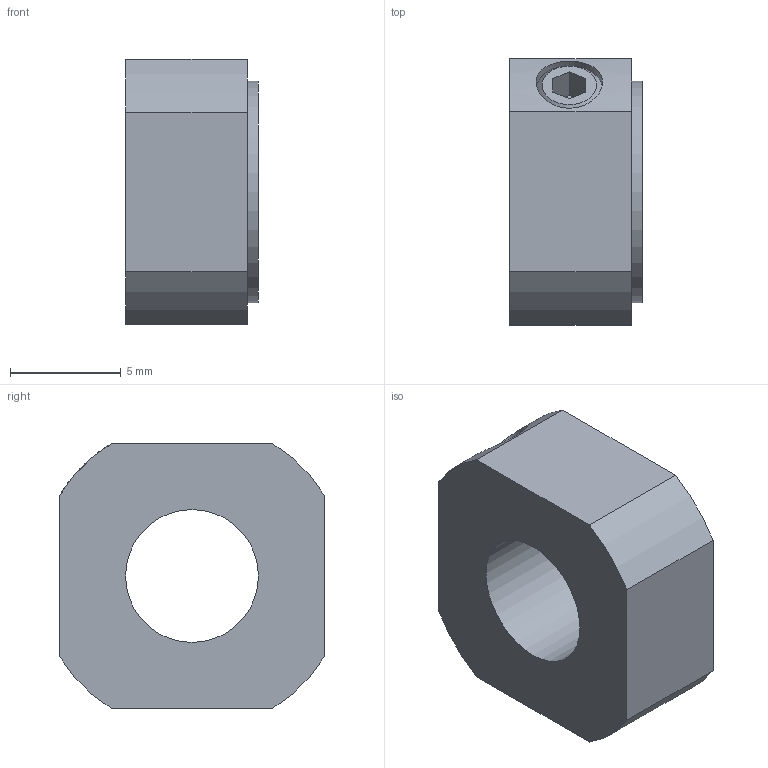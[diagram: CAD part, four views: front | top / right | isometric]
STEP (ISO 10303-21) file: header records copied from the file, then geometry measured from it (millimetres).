
FILE_DESCRIPTION((''),'2;1');
FILE_NAME('D:\製品 (図面)\カタログ用3D\ネジ関連\STEP形式\LNM\LNM6×0.5.stp','2010-06-02T14:33:45',('Tsuchiya'),(''),'Autodesk Inventor 10','Autodesk Inventor 10','');
FILE_SCHEMA(('AUTOMOTIVE_DESIGN { 1 0 10303 214 1 1 1 1 }'));
Length unit declared in the file: millimetre
Products named in the file (1): LNM6×0.5
Bounding box: 6 x 12 x 12 mm (x, y, z)
Volume: 604.6 mm3; surface area: 587.3 mm2
Topology: 1 solids, 1 shells, 23 faces, 55 edges, 37 vertices
Faces by surface type: plane 15, cylinder 6, cone 1, bspline 1
Full cylindrical faces by diameter (mm): 3 x1, 10 x1
Entity records: 732 total; most frequent: CARTESIAN_POINT 181, DIRECTION 108, ORIENTED_EDGE 100, EDGE_CURVE 50, AXIS2_PLACEMENT_3D 37, VERTEX_POINT 36, VECTOR 34, LINE 34
